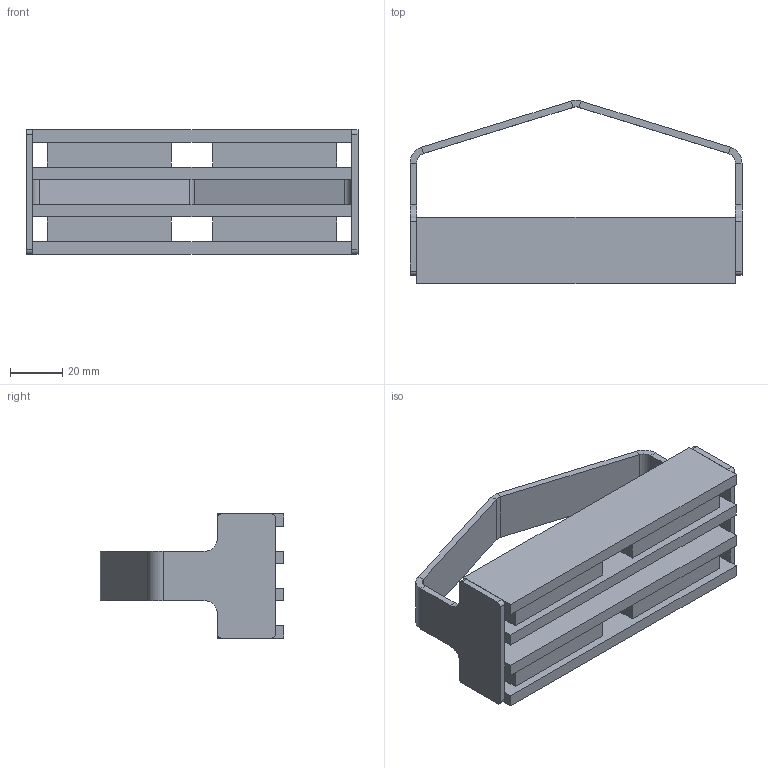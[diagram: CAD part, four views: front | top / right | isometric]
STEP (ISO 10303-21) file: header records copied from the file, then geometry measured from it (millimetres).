
FILE_DESCRIPTION (( 'STEP AP203' ), '1' );
FILE_NAME ('DT0600.STEP', '2018-08-20T15:55:03', ( '' ), ( '' ), 'SwSTEP 2.0', 'SolidWorks 2015', '' );
FILE_SCHEMA (( 'CONFIG_CONTROL_DESIGN' ));
Length unit declared in the file: inch
Products named in the file (1): DT0600
Bounding box: 127.32 x 70.31 x 47.62 mm (x, y, z)
Volume: 113484.3 mm3; surface area: 56765.8 mm2
Topology: 9 solids, 9 shells, 98 faces, 216 edges, 136 vertices
Faces by surface type: plane 80, cylinder 18
Entity records: 2707 total; most frequent: CARTESIAN_POINT 451, DIRECTION 450, ORIENTED_EDGE 432, EDGE_CURVE 216, VECTOR 180, LINE 180, VERTEX_POINT 136, AXIS2_PLACEMENT_3D 135
